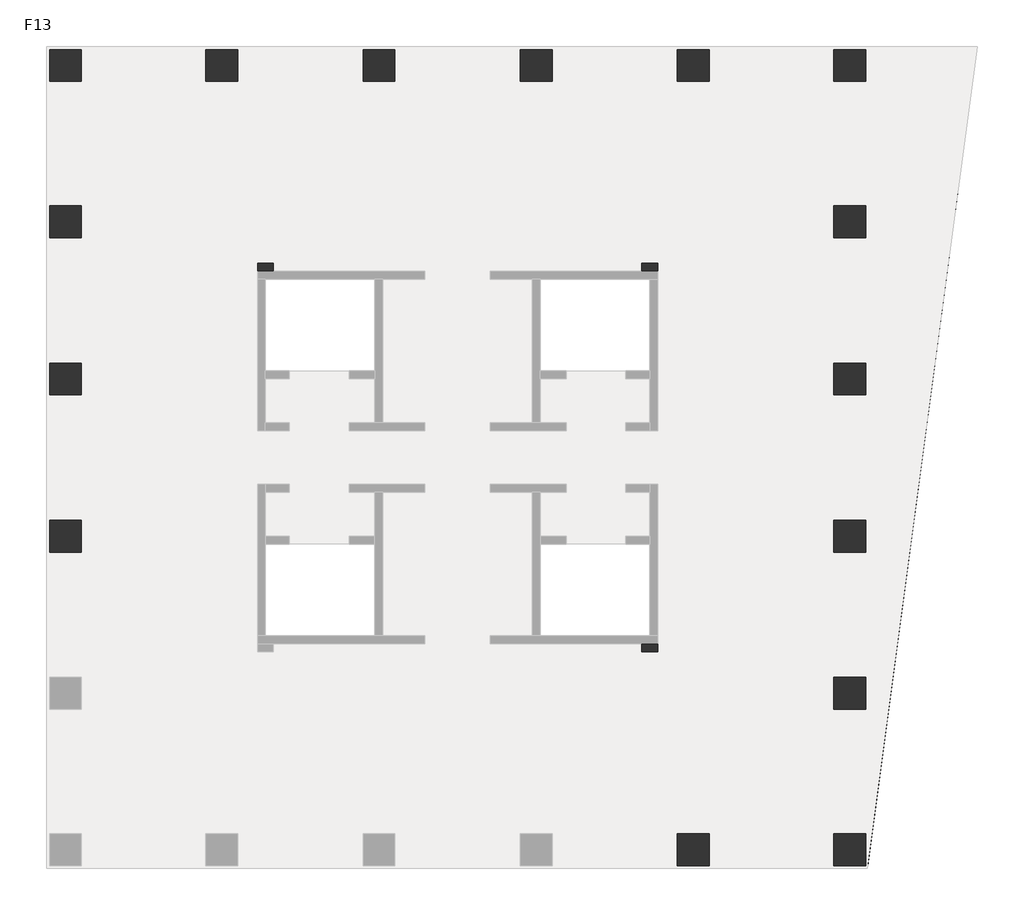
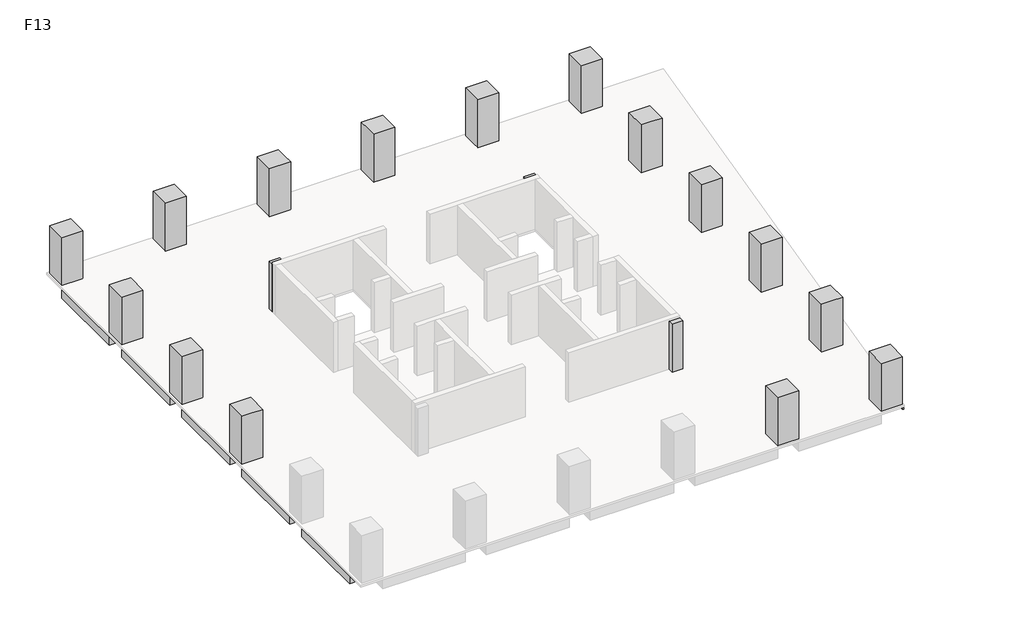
# One storey, part 2 of 2: 21 beams, 18 columns.
"""IFC4 building model written with IfcOpenShell, lengths in millimetres."""

from ifc_helpers import new_model, si_unit, frame, origin, place, context, project, spatial, polyline, outline, extrude, faceted_brep, element, save

model = new_model("IFC4")

# Units and contexts
model_context = context("Model", 3, world=origin())
ifc_project = project(units=[si_unit("LENGTHUNIT", "METRE", prefix="MILLI")], contexts=[model_context])

# Site, building, storey
site = spatial("IfcSite", under=ifc_project)
building = spatial("IfcBuilding", under=site)
storey = spatial("IfcBuildingStorey", under=building, Name="F13", Elevation=52000.0)

# Beams
placement = place(None, origin())
element("IfcBeam", 1, ObjectType="混凝土 - 矩形梁 : KL(5)-800x1000", at=placement, inside=storey, context=model_context, shape_type="SweptSolid", body=[
    extrude(outline(polyline([(25327.3257831, 27051.0498658), (25327.3257831, 26251.0498658), (19077.3257831, 26251.0498658), (19077.3257831, 27051.0498658), (25327.3257831, 27051.0498658)])), frame((0.0, 0.0, 51000.0), z_axis=(0.0, 0.0, 1.0), x_axis=(1.0, 0.0, 0.0)), (0.0, 0.0, 1.0), 840.0),
    extrude(outline(polyline([(-12472.6742169, 26251.0498658), (-12472.6742169, 27051.0498658), (-6222.6742169, 27051.0498658), (-6222.6742169, 26251.0498658), (-12472.6742169, 26251.0498658)])), frame((0.0, 0.0, 51000.0), z_axis=(0.0, 0.0, 1.0), x_axis=(1.0, 0.0, 0.0)), (0.0, 0.0, 1.0), 840.0),
    extrude(outline(polyline([(-4622.6742169, 26251.0498658), (-4622.6742169, 27051.0498658), (1677.3257831, 27051.0498658), (1677.3257831, 26251.0498658), (-4622.6742169, 26251.0498658)])), frame((0.0, 0.0, 51000.0), z_axis=(0.0, 0.0, 1.0), x_axis=(1.0, 0.0, 0.0)), (0.0, 0.0, 1.0), 840.0),
    extrude(outline(polyline([(3277.3257831, 26251.0498658), (3277.3257831, 27051.0498658), (9577.3257831, 27051.0498658), (9577.3257831, 26251.0498658), (3277.3257831, 26251.0498658)])), frame((0.0, 0.0, 51000.0), z_axis=(0.0, 0.0, 1.0), x_axis=(1.0, 0.0, 0.0)), (0.0, 0.0, 1.0), 840.0),
    extrude(outline(polyline([(11177.3257831, 26251.0498658), (11177.3257831, 27051.0498658), (17477.3257831, 27051.0498658), (17477.3257831, 26251.0498658), (11177.3257831, 26251.0498658)])), frame((0.0, 0.0, 51000.0), z_axis=(0.0, 0.0, 1.0), x_axis=(1.0, 0.0, 0.0)), (0.0, 0.0, 1.0), 840.0),
])
element("IfcBeam", 2, ObjectType="混凝土 - 矩形梁 : KL(5)-800x1000", at=placement, inside=storey, context=model_context, shape_type="Brep", body=[
    faceted_brep([(26927.3257831, 26251.0498658, 51000.0), (32422.0087099, 26251.0498658, 51000.0), (32422.0087099, 26251.0498658, 51840.0), (32018.4257091, 26251.0498658, 51840.0), (26927.3257831, 26251.0498658, 51840.0), (32422.0087099, 27051.0498658, 51000.0), (26927.3257831, 27051.0498658, 51000.0), (26927.3257831, 27051.0498658, 51840.0), (32422.0087099, 27051.0498658, 51840.0)], [[[0, 1, 2, 3, 4]], [[5, 1, 0, 6]], [[5, 6, 7, 8]], [[1, 5, 8, 2]], [[6, 0, 4, 7]], [[4, 3, 2, 8, 7]]]),
])
element("IfcBeam", 3, ObjectType="混凝土 - 矩形梁 : KL(5)-800x1000", at=placement, inside=storey, context=model_context, shape_type="Brep", body=[
    faceted_brep([(26127.3257831, -6098.9501342, 51000.0), (26127.3257831, -12348.9501342, 51000.0), (26127.3257831, -12348.9501342, 51840.0), (26127.3257831, -6098.9501342, 51840.0), (26927.3257831, -12348.9501342, 51000.0), (26927.3257831, -6098.9501342, 51000.0), (26927.3257831, -6098.9501342, 51840.0), (26927.3257831, -11700.7859463, 51840.0), (26927.3257831, -12348.9501342, 51840.0)], [[[0, 1, 2, 3]], [[4, 1, 0, 5]], [[4, 5, 6, 7, 8]], [[1, 4, 8, 2]], [[5, 0, 3, 6]], [[3, 2, 8, 7, 6]]]),
    faceted_brep([(26927.3257831, 25451.0498658, 51000.0), (26127.3257831, 25451.0498658, 51000.0), (26127.3257831, 25451.0498658, 51840.0), (26927.3257831, 25451.0498658, 51840.0), (26127.3257831, 19201.0498658, 51000.0), (26927.3257831, 19201.0498658, 51000.0), (26927.3257831, 19201.0498658, 51840.0), (26127.3257831, 19201.0498658, 51840.0)], [[[0, 1, 2, 3]], [[4, 5, 6, 7]], [[1, 4, 7, 2]], [[1, 0, 5, 4]], [[5, 0, 3, 6]], [[3, 2, 7, 6]]]),
    faceted_brep([(26927.3257831, 17601.0498658, 51000.0), (26127.3257831, 17601.0498658, 51000.0), (26127.3257831, 17601.0498658, 51840.0), (26927.3257831, 17601.0498658, 51840.0), (26127.3257831, 11301.0498658, 51000.0), (26927.3257831, 11301.0498658, 51000.0), (26927.3257831, 11301.0498658, 51840.0), (26127.3257831, 11301.0498658, 51840.0)], [[[0, 1, 2, 3]], [[4, 5, 6, 7]], [[1, 4, 7, 2]], [[1, 0, 5, 4]], [[5, 0, 3, 6]], [[3, 2, 7, 6]]]),
    faceted_brep([(26927.3257831, 9701.0498658, 51000.0), (26127.3257831, 9701.0498658, 51000.0), (26127.3257831, 9701.0498658, 51840.0), (26927.3257831, 9701.0498658, 51840.0), (26127.3257831, 3401.0498658, 51000.0), (26927.3257831, 3401.0498658, 51000.0), (26927.3257831, 3401.0498658, 51840.0), (26127.3257831, 3401.0498658, 51840.0)], [[[0, 1, 2, 3]], [[4, 5, 6, 7]], [[1, 4, 7, 2]], [[1, 0, 5, 4]], [[5, 0, 3, 6]], [[3, 2, 7, 6]]]),
    faceted_brep([(26927.3257831, 1801.0498658, 51000.0), (26127.3257831, 1801.0498658, 51000.0), (26127.3257831, 1801.0498658, 51840.0), (26927.3257831, 1801.0498658, 51840.0), (26127.3257831, -4498.9501342, 51000.0), (26927.3257831, -4498.9501342, 51000.0), (26927.3257831, -4498.9501342, 51840.0), (26127.3257831, -4498.9501342, 51840.0)], [[[0, 1, 2, 3]], [[4, 5, 6, 7]], [[1, 4, 7, 2]], [[1, 0, 5, 4]], [[5, 0, 3, 6]], [[3, 2, 7, 6]]]),
])
element("IfcBeam", 4, ObjectType="混凝土 - 矩形梁 : KL(5)-800x1000", at=placement, inside=storey, context=model_context, shape_type="SweptSolid", body=[
    extrude(outline(polyline([(-14072.6742169, 25451.0498658), (-13272.6742169, 25451.0498658), (-13272.6742169, 19201.0498658), (-14072.6742169, 19201.0498658), (-14072.6742169, 25451.0498658)])), frame((0.0, 0.0, 51000.0), z_axis=(0.0, 0.0, 1.0), x_axis=(1.0, 0.0, 0.0)), (0.0, 0.0, 1.0), 840.0),
    extrude(outline(polyline([(-13272.6742169, -12348.9501342), (-14072.6742169, -12348.9501342), (-14072.6742169, -6098.9501342), (-13272.6742169, -6098.9501342), (-13272.6742169, -12348.9501342)])), frame((0.0, 0.0, 51000.0), z_axis=(0.0, 0.0, 1.0), x_axis=(1.0, 0.0, 0.0)), (0.0, 0.0, 1.0), 840.0),
    extrude(outline(polyline([(-14072.6742169, 17601.0498658), (-13272.6742169, 17601.0498658), (-13272.6742169, 11301.0498658), (-14072.6742169, 11301.0498658), (-14072.6742169, 17601.0498658)])), frame((0.0, 0.0, 51000.0), z_axis=(0.0, 0.0, 1.0), x_axis=(1.0, 0.0, 0.0)), (0.0, 0.0, 1.0), 840.0),
    extrude(outline(polyline([(-14072.6742169, 9701.0498658), (-13272.6742169, 9701.0498658), (-13272.6742169, 3401.0498658), (-14072.6742169, 3401.0498658), (-14072.6742169, 9701.0498658)])), frame((0.0, 0.0, 51000.0), z_axis=(0.0, 0.0, 1.0), x_axis=(1.0, 0.0, 0.0)), (0.0, 0.0, 1.0), 840.0),
    extrude(outline(polyline([(-14072.6742169, 1801.0498658), (-13272.6742169, 1801.0498658), (-13272.6742169, -4498.9501342), (-14072.6742169, -4498.9501342), (-14072.6742169, 1801.0498658)])), frame((0.0, 0.0, 51000.0), z_axis=(0.0, 0.0, 1.0), x_axis=(1.0, 0.0, 0.0)), (0.0, 0.0, 1.0), 840.0),
])
element("IfcBeam", 5, ObjectType="混凝土 - 矩形梁 : L1-800x500", at=placement, inside=storey, context=model_context, shape_type="SweptSolid", body=[
    extrude(outline(polyline([(-12472.6742169, 2201.0498658), (-12472.6742169, 3001.0498658), (-3622.6742169, 3001.0498658), (-3622.6742169, 2201.0498658), (-12472.6742169, 2201.0498658)])), frame((0.0, 0.0, 51500.0), z_axis=(0.0, 0.0, 1.0), x_axis=(1.0, 0.0, 0.0)), (0.0, 0.0, 1.0), 340.0),
])
element("IfcBeam", 6, ObjectType="混凝土 - 矩形梁 : L1-800x500", at=placement, inside=storey, context=model_context, shape_type="SweptSolid", body=[
    extrude(outline(polyline([(-12472.6742169, 10101.0498658), (-12472.6742169, 10901.0498658), (-3622.6742169, 10901.0498658), (-3622.6742169, 10101.0498658), (-12472.6742169, 10101.0498658)])), frame((0.0, 0.0, 51500.0), z_axis=(0.0, 0.0, 1.0), x_axis=(1.0, 0.0, 0.0)), (0.0, 0.0, 1.0), 340.0),
])
element("IfcBeam", 7, ObjectType="混凝土 - 矩形梁 : L1-800x500", at=placement, inside=storey, context=model_context, shape_type="Brep", body=[
    faceted_brep([(-12472.6742169, 17789.85471, 51500.0), (-3622.6742169, 15588.3621727, 51500.0), (-3622.6742169, 15588.3621727, 51840.0), (-12472.6742169, 17789.85471, 51840.0), (-3173.6696907, 16301.0498658, 51500.0), (-3622.6742169, 16301.0498658, 51500.0), (-3622.6742169, 15901.0498658, 51500.0), (-12472.6742169, 18614.2350714, 51500.0), (-3746.9473979, 16443.6562607, 51500.0), (-12472.6742169, 18614.2350714, 51840.0), (-3746.9473979, 16443.6562607, 51840.0), (-3173.6696907, 16301.0498658, 51840.0), (-3622.6742169, 16301.0498658, 51840.0)], [[[0, 1, 2, 3]], [[4, 5, 6, 1, 0, 7, 8]], [[4, 8, 7, 9, 10, 11]], [[6, 5, 12, 2, 1]], [[5, 4, 11, 12]], [[7, 0, 3, 9]], [[3, 2, 12, 11, 10, 9]]]),
])
element("IfcBeam", 8, ObjectType="混凝土 - 矩形梁 : L1-800x500", at=placement, inside=storey, context=model_context, shape_type="SweptSolid", body=[
    extrude(outline(polyline([(-3173.6696907, 16301.0498658), (-3746.9473979, 16443.6562607), (-5661.5624638, 25451.0498658), (-4843.6893517, 25451.0498658), (-2898.7618154, 16301.0498658), (-3173.6696907, 16301.0498658)])), frame((0.0, 0.0, 51500.0), z_axis=(0.0, 0.0, 1.0), x_axis=(1.0, 0.0, 0.0)), (0.0, 0.0, 1.0), 340.0),
])
element("IfcBeam", 9, ObjectType="混凝土 - 矩形梁 : L1-800x500", at=placement, inside=storey, context=model_context, shape_type="SweptSolid", body=[
    extrude(outline(polyline([(2077.3257831, 25451.0498658), (2877.3257831, 25451.0498658), (2877.3257831, 15901.0498658), (2077.3257831, 15901.0498658), (2077.3257831, 25451.0498658)])), frame((0.0, 0.0, 51500.0), z_axis=(0.0, 0.0, 1.0), x_axis=(1.0, 0.0, 0.0)), (0.0, 0.0, 1.0), 340.0),
])
element("IfcBeam", 10, ObjectType="混凝土 - 矩形梁 : L1-800x500", at=placement, inside=storey, context=model_context, shape_type="SweptSolid", body=[
    extrude(outline(polyline([(9977.3257831, 25451.0498658), (10777.3257831, 25451.0498658), (10777.3257831, 15901.0498658), (9977.3257831, 15901.0498658), (9977.3257831, 25451.0498658)])), frame((0.0, 0.0, 51500.0), z_axis=(0.0, 0.0, 1.0), x_axis=(1.0, 0.0, 0.0)), (0.0, 0.0, 1.0), 340.0),
])
element("IfcBeam", 11, ObjectType="混凝土 - 矩形梁 : L1-800x500", at=placement, inside=storey, context=model_context, shape_type="Brep", body=[
    faceted_brep([(25327.3257831, -4687.7549784, 51500.0), (16477.3257831, -2486.2624411, 51500.0), (16477.3257831, -2486.2624411, 51840.0), (25327.3257831, -4687.7549784, 51840.0), (16028.3212569, -3198.9501342, 51500.0), (16477.3257831, -3198.9501342, 51500.0), (16477.3257831, -2798.9501342, 51500.0), (25327.3257831, -5512.1353397, 51500.0), (16601.5989641, -3341.556529, 51500.0), (25327.3257831, -5512.1353397, 51840.0), (16601.5989641, -3341.556529, 51840.0), (16028.3212569, -3198.9501342, 51840.0), (16477.3257831, -3198.9501342, 51840.0)], [[[0, 1, 2, 3]], [[4, 5, 6, 1, 0, 7, 8]], [[4, 8, 7, 9, 10, 11]], [[6, 5, 12, 2, 1]], [[5, 4, 11, 12]], [[7, 0, 3, 9]], [[3, 2, 12, 11, 10, 9]]]),
])
element("IfcBeam", 12, ObjectType="混凝土 - 矩形梁 : L1-800x500", at=placement, inside=storey, context=model_context, shape_type="SweptSolid", body=[
    extrude(outline(polyline([(16028.3212569, -3198.9501342), (16601.5989641, -3341.556529), (18516.21403, -12348.9501342), (17698.3409179, -12348.9501342), (15753.4133817, -3198.9501342), (16028.3212569, -3198.9501342)])), frame((0.0, 0.0, 51500.0), z_axis=(0.0, 0.0, 1.0), x_axis=(1.0, 0.0, 0.0)), (0.0, 0.0, 1.0), 340.0),
])
element("IfcBeam", 13, ObjectType="混凝土 - 矩形梁 : L1-800x500", at=placement, inside=storey, context=model_context, shape_type="SweptSolid", body=[
    extrude(outline(polyline([(25327.3257831, 3001.0498658), (25327.3257831, 2201.0498658), (16477.3257831, 2201.0498658), (16477.3257831, 3001.0498658), (25327.3257831, 3001.0498658)])), frame((0.0, 0.0, 51500.0), z_axis=(0.0, 0.0, 1.0), x_axis=(1.0, 0.0, 0.0)), (0.0, 0.0, 1.0), 340.0),
])
element("IfcBeam", 14, ObjectType="混凝土 - 矩形梁 : L1-800x500", at=placement, inside=storey, context=model_context, shape_type="SweptSolid", body=[
    extrude(outline(polyline([(25327.3257831, 10901.0498658), (25327.3257831, 10101.0498658), (16477.3257831, 10101.0498658), (16477.3257831, 10901.0498658), (25327.3257831, 10901.0498658)])), frame((0.0, 0.0, 51500.0), z_axis=(0.0, 0.0, 1.0), x_axis=(1.0, 0.0, 0.0)), (0.0, 0.0, 1.0), 340.0),
])
element("IfcBeam", 15, ObjectType="混凝土 - 矩形梁 : L1-800x500", at=placement, inside=storey, context=model_context, shape_type="Brep", body=[
    faceted_brep([(25327.3257831, 18610.6867312, 51500.0), (16590.8993897, 16393.3196262, 51500.0), (16227.3565337, 16301.0498658, 51500.0), (16227.3565337, 16301.0498658, 51840.0), (16590.8993897, 16393.3196262, 51840.0), (25327.3257831, 18610.6867312, 51840.0), (16477.3257831, 16301.0498658, 51500.0), (25327.3257831, 17785.3216299, 51500.0), (16477.3257831, 15539.1287365, 51500.0), (16477.3257831, 15901.0498658, 51500.0), (25327.3257831, 17785.3216299, 51840.0), (16477.3257831, 15539.1287365, 51840.0), (16477.3257831, 16301.0498658, 51840.0)], [[[0, 1, 2, 3, 4, 5]], [[6, 2, 1, 0, 7, 8, 9]], [[8, 7, 10, 11]], [[9, 8, 11, 12, 6]], [[2, 6, 12, 3]], [[7, 0, 5, 10]], [[5, 4, 3, 12, 11, 10]]]),
])
element("IfcBeam", 16, ObjectType="混凝土 - 矩形梁 : L1-800x500", at=placement, inside=storey, context=model_context, shape_type="SweptSolid", body=[
    extrude(outline(polyline([(16590.8993897, 16393.3196262), (16227.3565337, 16301.0498658), (15753.4133817, 16301.0498658), (17698.3409179, 25451.0498658), (18516.21403, 25451.0498658), (16590.8993897, 16393.3196262)])), frame((0.0, 0.0, 51500.0), z_axis=(0.0, 0.0, 1.0), x_axis=(1.0, 0.0, 0.0)), (0.0, 0.0, 1.0), 340.0),
])
element("IfcBeam", 17, ObjectType="混凝土 - 矩形梁 : L2-400x400", at=placement, inside=storey, context=model_context, shape_type="Brep", body=[
    faceted_brep([(32422.0087099, 26251.0498658, 51600.0), (27029.3257831, -13948.9501342, 51600.0), (26927.3257831, -13935.2672073, 51600.0), (26927.3257831, -11700.7859463, 51600.0), (27759.2793677, -5498.9501342, 51600.0), (27812.9379042, -5098.9501342, 51600.0), (28819.0354652, 2401.0498658, 51600.0), (28872.6940018, 2801.0498658, 51600.0), (29878.7915628, 10301.0498658, 51600.0), (29932.4500994, 10701.0498658, 51600.0), (30938.5476603, 18201.0498658, 51600.0), (30992.2061969, 18601.0498658, 51600.0), (32018.4257091, 26251.0498658, 51600.0), (32422.0087099, 26251.0498658, 51840.0), (27029.3257831, -13948.9501342, 51840.0), (32018.4257091, 26251.0498658, 51840.0), (26927.3257831, -13935.2672073, 51840.0), (26927.3257831, -12348.9501342, 51840.0), (26927.3257831, -11700.7859463, 51840.0), (27759.2793677, -5498.9501342, 51840.0), (27812.9379042, -5098.9501342, 51840.0), (28819.0354652, 2401.0498658, 51840.0), (28872.6940018, 2801.0498658, 51840.0), (29878.7915628, 10301.0498658, 51840.0), (29932.4500994, 10701.0498658, 51840.0), (30938.5476603, 18201.0498658, 51840.0), (30992.2061969, 18601.0498658, 51840.0)], [[[0, 1, 2, 3, 4, 5, 6, 7, 8, 9, 10, 11, 12]], [[1, 0, 13, 14]], [[0, 12, 15, 13]], [[3, 2, 16, 17, 18]], [[12, 11, 10, 9, 8, 7, 6, 5, 4, 3, 18, 19, 20, 21, 22, 23, 24, 25, 26, 15]], [[2, 1, 14, 16]], [[14, 13, 15, 26, 25, 24, 23, 22, 21, 20, 19, 18, 17, 16]]]),
])
element("IfcBeam", 18, ObjectType="混凝土 - 矩形梁 : L2-400x400", at=placement, inside=storey, context=model_context, shape_type="SweptSolid", body=[
    extrude(outline(polyline([(30938.5476603, 18201.0498658), (26927.3257831, 18201.0498658), (26927.3257831, 18601.0498658), (30992.2061969, 18601.0498658), (30938.5476603, 18201.0498658)])), frame((0.0, 0.0, 51600.0), z_axis=(0.0, 0.0, 1.0), x_axis=(1.0, 0.0, 0.0)), (0.0, 0.0, 1.0), 240.0),
])
element("IfcBeam", 19, ObjectType="混凝土 - 矩形梁 : L2-400x400", at=placement, inside=storey, context=model_context, shape_type="SweptSolid", body=[
    extrude(outline(polyline([(29878.7915628, 10301.0498658), (26927.3257831, 10301.0498658), (26927.3257831, 10701.0498658), (29932.4500994, 10701.0498658), (29878.7915628, 10301.0498658)])), frame((0.0, 0.0, 51600.0), z_axis=(0.0, 0.0, 1.0), x_axis=(1.0, 0.0, 0.0)), (0.0, 0.0, 1.0), 240.0),
])
element("IfcBeam", 20, ObjectType="混凝土 - 矩形梁 : L2-400x400", at=placement, inside=storey, context=model_context, shape_type="SweptSolid", body=[
    extrude(outline(polyline([(28819.0354652, 2401.0498658), (26927.3257831, 2401.0498658), (26927.3257831, 2801.0498658), (28872.6940018, 2801.0498658), (28819.0354652, 2401.0498658)])), frame((0.0, 0.0, 51600.0), z_axis=(0.0, 0.0, 1.0), x_axis=(1.0, 0.0, 0.0)), (0.0, 0.0, 1.0), 240.0),
])
element("IfcBeam", 21, ObjectType="混凝土 - 矩形梁 : L2-400x400", at=placement, inside=storey, context=model_context, shape_type="SweptSolid", body=[
    extrude(outline(polyline([(27759.2793677, -5498.9501342), (26927.3257831, -5498.9501342), (26927.3257831, -5098.9501342), (27812.9379042, -5098.9501342), (27759.2793677, -5498.9501342)])), frame((0.0, 0.0, 51600.0), z_axis=(0.0, 0.0, 1.0), x_axis=(1.0, 0.0, 0.0)), (0.0, 0.0, 1.0), 240.0),
])

# Columns
element("IfcColumn", 22, ObjectType="混凝土 - 矩形 - 柱 : Z1-1600x1600", at=placement, inside=storey, context=model_context, shape_type="SweptSolid", body=[
    extrude(outline(polyline([(-12472.6742169, 27051.0498658), (-12472.6742169, 25451.0498658), (-14072.6742169, 25451.0498658), (-14072.6742169, 27051.0498658), (-12472.6742169, 27051.0498658)])), frame((0.0, 0.0, 52000.0), z_axis=(0.0, 0.0, 1.0), x_axis=(1.0, 0.0, 0.0)), (0.0, 0.0, 1.0), 3840.0),
])
element("IfcColumn", 23, ObjectType="混凝土 - 矩形 - 柱 : Z1-1600x1600", at=placement, inside=storey, context=model_context, shape_type="Brep", body=[
    faceted_brep([(-4622.6742169, 27051.0498658, 52000.0), (-4622.6742169, 25451.0498658, 52000.0), (-6222.6742169, 25451.0498658, 52000.0), (-6222.6742169, 27051.0498658, 52000.0), (-4622.6742169, 27051.0498658, 55000.0), (-4622.6742169, 27051.0498658, 55840.0), (-4622.6742169, 26251.0498658, 55840.0), (-4622.6742169, 25451.0498658, 55840.0), (-6222.6742169, 25451.0498658, 55840.0), (-6222.6742169, 26251.0498658, 55840.0), (-6222.6742169, 27051.0498658, 55840.0), (-6222.6742169, 27051.0498658, 55000.0)], [[[0, 1, 2, 3]], [[1, 0, 4, 5, 6, 7]], [[2, 1, 7, 8]], [[3, 2, 8, 9, 10, 11]], [[0, 3, 11, 10, 5, 4]], [[7, 6, 5, 10, 9, 8]]]),
])
element("IfcColumn", 24, ObjectType="混凝土 - 矩形 - 柱 : Z1-1600x1600", at=placement, inside=storey, context=model_context, shape_type="Brep", body=[
    faceted_brep([(-12472.6742169, 19201.0498658, 52000.0), (-12472.6742169, 17601.0498658, 52000.0), (-14072.6742169, 17601.0498658, 52000.0), (-14072.6742169, 19201.0498658, 52000.0), (-12472.6742169, 19201.0498658, 55840.0), (-12472.6742169, 17601.0498658, 55840.0), (-13272.6742169, 17601.0498658, 55840.0), (-14072.6742169, 17601.0498658, 55840.0), (-14072.6742169, 17601.0498658, 55000.0), (-14072.6742169, 19201.0498658, 55840.0), (-14072.6742169, 19201.0498658, 55000.0), (-13272.6742169, 19201.0498658, 55840.0)], [[[0, 1, 2, 3]], [[1, 0, 4, 5]], [[2, 1, 5, 6, 7, 8]], [[3, 2, 8, 7, 9, 10]], [[0, 3, 10, 9, 11, 4]], [[5, 4, 11, 9, 7, 6]]]),
])
element("IfcColumn", 25, ObjectType="混凝土 - 矩形 - 柱 : Z1-1600x1600", at=placement, inside=storey, context=model_context, shape_type="Brep", body=[
    faceted_brep([(-12472.6742169, 11301.0498658, 52000.0), (-12472.6742169, 9701.0498658, 52000.0), (-14072.6742169, 9701.0498658, 52000.0), (-14072.6742169, 11301.0498658, 52000.0), (-12472.6742169, 11301.0498658, 55840.0), (-12472.6742169, 9701.0498658, 55840.0), (-13272.6742169, 9701.0498658, 55840.0), (-14072.6742169, 9701.0498658, 55840.0), (-14072.6742169, 9701.0498658, 55000.0), (-14072.6742169, 11301.0498658, 55840.0), (-14072.6742169, 11301.0498658, 55000.0), (-13272.6742169, 11301.0498658, 55840.0)], [[[0, 1, 2, 3]], [[1, 0, 4, 5]], [[2, 1, 5, 6, 7, 8]], [[3, 2, 8, 7, 9, 10]], [[0, 3, 10, 9, 11, 4]], [[5, 4, 11, 9, 7, 6]]]),
])
element("IfcColumn", 26, ObjectType="混凝土 - 矩形 - 柱 : Z1-1600x1600", at=placement, inside=storey, context=model_context, shape_type="Brep", body=[
    faceted_brep([(-12472.6742169, 3401.0498658, 52000.0), (-12472.6742169, 1801.0498658, 52000.0), (-14072.6742169, 1801.0498658, 52000.0), (-14072.6742169, 3401.0498658, 52000.0), (-12472.6742169, 3401.0498658, 55840.0), (-12472.6742169, 1801.0498658, 55840.0), (-13272.6742169, 1801.0498658, 55840.0), (-14072.6742169, 1801.0498658, 55840.0), (-14072.6742169, 1801.0498658, 55000.0), (-14072.6742169, 3401.0498658, 55840.0), (-14072.6742169, 3401.0498658, 55000.0), (-13272.6742169, 3401.0498658, 55840.0)], [[[0, 1, 2, 3]], [[1, 0, 4, 5]], [[2, 1, 5, 6, 7, 8]], [[3, 2, 8, 7, 9, 10]], [[0, 3, 10, 9, 11, 4]], [[5, 4, 11, 9, 7, 6]]]),
])
element("IfcColumn", 27, ObjectType="混凝土 - 矩形 - 柱 : Z1-1600x1600", at=placement, inside=storey, context=model_context, shape_type="SweptSolid", body=[
    extrude(outline(polyline([(25327.3257831, 27051.0498658), (26927.3257831, 27051.0498658), (26927.3257831, 25451.0498658), (25327.3257831, 25451.0498658), (25327.3257831, 27051.0498658)])), frame((0.0, 0.0, 52000.0), z_axis=(0.0, 0.0, 1.0), x_axis=(1.0, 0.0, 0.0)), (0.0, 0.0, 1.0), 3840.0),
])
element("IfcColumn", 28, ObjectType="混凝土 - 矩形 - 柱 : Z1-1600x1600", at=placement, inside=storey, context=model_context, shape_type="Brep", body=[
    faceted_brep([(25327.3257831, 19201.0498658, 52000.0), (26927.3257831, 19201.0498658, 52000.0), (26927.3257831, 17601.0498658, 52000.0), (25327.3257831, 17601.0498658, 52000.0), (25327.3257831, 17601.0498658, 55840.0), (25327.3257831, 19201.0498658, 55840.0), (26927.3257831, 17601.0498658, 55000.0), (26927.3257831, 17601.0498658, 55840.0), (26127.3257831, 17601.0498658, 55840.0), (26927.3257831, 19201.0498658, 55000.0), (26927.3257831, 19201.0498658, 55840.0), (26127.3257831, 19201.0498658, 55840.0)], [[[0, 1, 2, 3]], [[0, 3, 4, 5]], [[3, 2, 6, 7, 8, 4]], [[2, 1, 9, 10, 7, 6]], [[1, 0, 5, 11, 10, 9]], [[5, 4, 8, 7, 10, 11]]]),
])
element("IfcColumn", 29, ObjectType="混凝土 - 矩形 - 柱 : Z1-1600x1600", at=placement, inside=storey, context=model_context, shape_type="Brep", body=[
    faceted_brep([(25327.3257831, 11301.0498658, 52000.0), (26927.3257831, 11301.0498658, 52000.0), (26927.3257831, 9701.0498658, 52000.0), (25327.3257831, 9701.0498658, 52000.0), (25327.3257831, 9701.0498658, 55840.0), (25327.3257831, 11301.0498658, 55840.0), (26927.3257831, 9701.0498658, 55000.0), (26927.3257831, 9701.0498658, 55840.0), (26127.3257831, 9701.0498658, 55840.0), (26927.3257831, 11301.0498658, 55000.0), (26927.3257831, 11301.0498658, 55840.0), (26127.3257831, 11301.0498658, 55840.0)], [[[0, 1, 2, 3]], [[0, 3, 4, 5]], [[3, 2, 6, 7, 8, 4]], [[2, 1, 9, 10, 7, 6]], [[1, 0, 5, 11, 10, 9]], [[5, 4, 8, 7, 10, 11]]]),
])
element("IfcColumn", 30, ObjectType="混凝土 - 矩形 - 柱 : Z1-1600x1600", at=placement, inside=storey, context=model_context, shape_type="Brep", body=[
    faceted_brep([(25327.3257831, 3401.0498658, 52000.0), (26927.3257831, 3401.0498658, 52000.0), (26927.3257831, 1801.0498658, 52000.0), (25327.3257831, 1801.0498658, 52000.0), (25327.3257831, 1801.0498658, 55840.0), (25327.3257831, 3401.0498658, 55840.0), (26927.3257831, 1801.0498658, 55000.0), (26927.3257831, 1801.0498658, 55840.0), (26127.3257831, 1801.0498658, 55840.0), (26927.3257831, 3401.0498658, 55000.0), (26927.3257831, 3401.0498658, 55840.0), (26127.3257831, 3401.0498658, 55840.0)], [[[0, 1, 2, 3]], [[0, 3, 4, 5]], [[3, 2, 6, 7, 8, 4]], [[2, 1, 9, 10, 7, 6]], [[1, 0, 5, 11, 10, 9]], [[5, 4, 8, 7, 10, 11]]]),
])
element("IfcColumn", 31, ObjectType="混凝土 - 矩形 - 柱 : Z1-1600x1600", at=placement, inside=storey, context=model_context, shape_type="Brep", body=[
    faceted_brep([(25327.3257831, -4498.9501342, 52000.0), (26927.3257831, -4498.9501342, 52000.0), (26927.3257831, -6098.9501342, 52000.0), (25327.3257831, -6098.9501342, 52000.0), (25327.3257831, -6098.9501342, 55840.0), (25327.3257831, -4498.9501342, 55840.0), (26927.3257831, -6098.9501342, 55000.0), (26927.3257831, -6098.9501342, 55840.0), (26127.3257831, -6098.9501342, 55840.0), (26927.3257831, -4498.9501342, 55000.0), (26927.3257831, -4498.9501342, 55840.0), (26127.3257831, -4498.9501342, 55840.0)], [[[0, 1, 2, 3]], [[0, 3, 4, 5]], [[3, 2, 6, 7, 8, 4]], [[2, 1, 9, 10, 7, 6]], [[1, 0, 5, 11, 10, 9]], [[5, 4, 8, 7, 10, 11]]]),
])
element("IfcColumn", 32, ObjectType="混凝土 - 矩形 - 柱 : Z1-1600x1600", at=placement, inside=storey, context=model_context, shape_type="SweptSolid", body=[
    extrude(outline(polyline([(25327.3257831, -12348.9501342), (26927.3257831, -12348.9501342), (26927.3257831, -13948.9501342), (25327.3257831, -13948.9501342), (25327.3257831, -12348.9501342)])), frame((0.0, 0.0, 52000.0), z_axis=(0.0, 0.0, 1.0), x_axis=(1.0, 0.0, 0.0)), (0.0, 0.0, 1.0), 3840.0),
])
element("IfcColumn", 33, ObjectType="混凝土 - 矩形 - 柱 : Z1-1600x1600", at=placement, inside=storey, context=model_context, shape_type="Brep", body=[
    faceted_brep([(3277.3257831, 27051.0498658, 52000.0), (3277.3257831, 25451.0498658, 52000.0), (1677.3257831, 25451.0498658, 52000.0), (1677.3257831, 27051.0498658, 52000.0), (3277.3257831, 27051.0498658, 55000.0), (3277.3257831, 27051.0498658, 55840.0), (3277.3257831, 26251.0498658, 55840.0), (3277.3257831, 25451.0498658, 55840.0), (1677.3257831, 25451.0498658, 55840.0), (1677.3257831, 26251.0498658, 55840.0), (1677.3257831, 27051.0498658, 55840.0), (1677.3257831, 27051.0498658, 55000.0)], [[[0, 1, 2, 3]], [[1, 0, 4, 5, 6, 7]], [[2, 1, 7, 8]], [[3, 2, 8, 9, 10, 11]], [[0, 3, 11, 10, 5, 4]], [[7, 6, 5, 10, 9, 8]]]),
])
element("IfcColumn", 34, ObjectType="混凝土 - 矩形 - 柱 : Z1-1600x1600", at=placement, inside=storey, context=model_context, shape_type="Brep", body=[
    faceted_brep([(11177.3257831, 27051.0498658, 52000.0), (11177.3257831, 25451.0498658, 52000.0), (9577.3257831, 25451.0498658, 52000.0), (9577.3257831, 27051.0498658, 52000.0), (11177.3257831, 27051.0498658, 55000.0), (11177.3257831, 27051.0498658, 55840.0), (11177.3257831, 26251.0498658, 55840.0), (11177.3257831, 25451.0498658, 55840.0), (9577.3257831, 25451.0498658, 55840.0), (9577.3257831, 26251.0498658, 55840.0), (9577.3257831, 27051.0498658, 55840.0), (9577.3257831, 27051.0498658, 55000.0)], [[[0, 1, 2, 3]], [[1, 0, 4, 5, 6, 7]], [[2, 1, 7, 8]], [[3, 2, 8, 9, 10, 11]], [[0, 3, 11, 10, 5, 4]], [[7, 6, 5, 10, 9, 8]]]),
])
element("IfcColumn", 35, ObjectType="混凝土 - 矩形 - 柱 : Z1-1600x1600", at=placement, inside=storey, context=model_context, shape_type="Brep", body=[
    faceted_brep([(19077.3257831, 27051.0498658, 52000.0), (19077.3257831, 25451.0498658, 52000.0), (17477.3257831, 25451.0498658, 52000.0), (17477.3257831, 27051.0498658, 52000.0), (19077.3257831, 27051.0498658, 55000.0), (19077.3257831, 27051.0498658, 55840.0), (19077.3257831, 26251.0498658, 55840.0), (19077.3257831, 25451.0498658, 55840.0), (17477.3257831, 25451.0498658, 55840.0), (17477.3257831, 26251.0498658, 55840.0), (17477.3257831, 27051.0498658, 55840.0), (17477.3257831, 27051.0498658, 55000.0)], [[[0, 1, 2, 3]], [[1, 0, 4, 5, 6, 7]], [[2, 1, 7, 8]], [[3, 2, 8, 9, 10, 11]], [[0, 3, 11, 10, 5, 4]], [[7, 6, 5, 10, 9, 8]]]),
])
element("IfcColumn", 36, ObjectType="混凝土 - 矩形 - 柱 : Z1-1600x1600", at=placement, inside=storey, context=model_context, shape_type="Brep", body=[
    faceted_brep([(19077.3257831, -12348.9501342, 52000.0), (19077.3257831, -13948.9501342, 52000.0), (17477.3257831, -13948.9501342, 52000.0), (17477.3257831, -12348.9501342, 52000.0), (19077.3257831, -12348.9501342, 55840.0), (19077.3257831, -13148.9501342, 55840.0), (19077.3257831, -13948.9501342, 55840.0), (19077.3257831, -13948.9501342, 55000.0), (17477.3257831, -13948.9501342, 55840.0), (17477.3257831, -13948.9501342, 55000.0), (17477.3257831, -13148.9501342, 55840.0), (17477.3257831, -12348.9501342, 55840.0)], [[[0, 1, 2, 3]], [[1, 0, 4, 5, 6, 7]], [[2, 1, 7, 6, 8, 9]], [[3, 2, 9, 8, 10, 11]], [[0, 3, 11, 4]], [[6, 5, 4, 11, 10, 8]]]),
])
element("IfcColumn", 37, ObjectType="混凝土 - 矩形 - 柱 : Z2-800x800", at=placement, inside=storey, context=model_context, shape_type="SweptSolid", body=[
    extrude(outline(polyline([(-3622.6742169, 16301.0498658), (-2822.6742169, 16301.0498658), (-2822.6742169, 15901.0498658), (-3622.6742169, 15901.0498658), (-3622.6742169, 16301.0498658)])), frame((0.0, 0.0, 52000.0), z_axis=(0.0, 0.0, 1.0), x_axis=(1.0, 0.0, 0.0)), (0.0, 0.0, 1.0), 3840.0),
])
element("IfcColumn", 38, ObjectType="混凝土 - 矩形 - 柱 : Z2-800x800", at=placement, inside=storey, context=model_context, shape_type="SweptSolid", body=[
    extrude(outline(polyline([(16477.3257831, -3198.9501342), (15677.3257831, -3198.9501342), (15677.3257831, -2798.9501342), (16477.3257831, -2798.9501342), (16477.3257831, -3198.9501342)])), frame((0.0, 0.0, 52000.0), z_axis=(0.0, 0.0, 1.0), x_axis=(1.0, 0.0, 0.0)), (0.0, 0.0, 1.0), 3840.0),
])
element("IfcColumn", 39, ObjectType="混凝土 - 矩形 - 柱 : Z2-800x800", at=placement, inside=storey, context=model_context, shape_type="SweptSolid", body=[
    extrude(outline(polyline([(15677.3257831, 16301.0498658), (16477.3257831, 16301.0498658), (16477.3257831, 15901.0498658), (15677.3257831, 15901.0498658), (15677.3257831, 16301.0498658)])), frame((0.0, 0.0, 52000.0), z_axis=(0.0, 0.0, 1.0), x_axis=(1.0, 0.0, 0.0)), (0.0, 0.0, 1.0), 3840.0),
])

save(model, "model.ifc")
